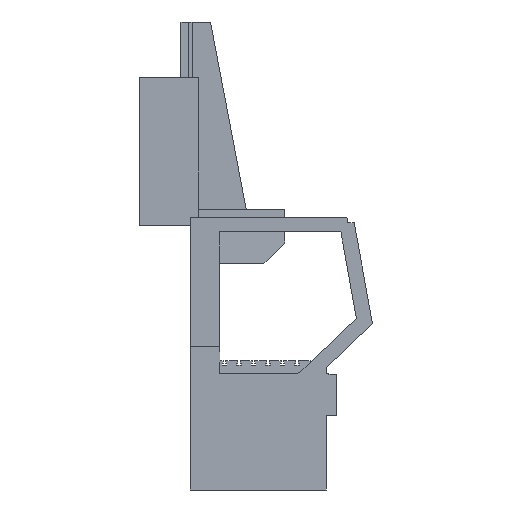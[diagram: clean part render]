
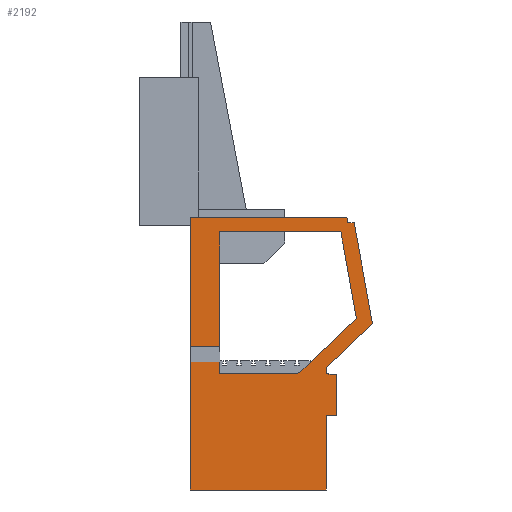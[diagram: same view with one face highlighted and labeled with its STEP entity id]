
A CAD part, left-side view. The second image highlights one B-rep face of the part: STEP entity #2192.
In plain terms, the highlighted planar face has unit normal (-1, 0, 0) as drawn and (1, 0, 0) by its records, which use the part's own axes.
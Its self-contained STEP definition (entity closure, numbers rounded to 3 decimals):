
#554=CARTESIAN_POINT('Vertex',(195.,-295.,242.)) ;
#557=CARTESIAN_POINT('Line Origine',(195.,-147.5,242.)) ;
#561=CARTESIAN_POINT('Vertex',(195.,0.,242.)) ;
#594=CARTESIAN_POINT('Vertex',(195.,-295.,321.089)) ;
#599=CARTESIAN_POINT('Line Origine',(195.,-295.,281.544)) ;
#608=CARTESIAN_POINT('Vertex',(195.,-295.,1202.)) ;
#611=CARTESIAN_POINT('Line Origine',(195.,-295.,815.709)) ;
#615=CARTESIAN_POINT('Vertex',(195.,-295.,429.418)) ;
#650=CARTESIAN_POINT('Vertex',(195.,525.,1202.)) ;
#653=CARTESIAN_POINT('Line Origine',(195.,115.,1202.)) ;
#674=CARTESIAN_POINT('Vertex',(195.,630.626,618.46)) ;
#677=CARTESIAN_POINT('Line Origine',(195.,577.813,910.23)) ;
#698=CARTESIAN_POINT('Vertex',(195.,235.,242.)) ;
#701=CARTESIAN_POINT('Line Origine',(195.,432.813,430.23)) ;
#713=CARTESIAN_POINT('Line Origine',(195.,117.5,242.)) ;
#722=CARTESIAN_POINT('Vertex',(195.,425.,242.)) ;
#725=CARTESIAN_POINT('Line Origine',(195.,435.,242.)) ;
#729=CARTESIAN_POINT('Vertex',(195.,445.,242.)) ;
#764=CARTESIAN_POINT('Vertex',(195.,572.221,1265.)) ;
#767=CARTESIAN_POINT('Line Origine',(195.,593.721,1265.)) ;
#771=CARTESIAN_POINT('Vertex',(195.,615.221,1265.)) ;
#795=CARTESIAN_POINT('Vertex',(195.,565.524,1302.)) ;
#798=CARTESIAN_POINT('Line Origine',(195.,568.873,1283.5)) ;
#1017=CARTESIAN_POINT('Vertex',(195.,-495.,321.089)) ;
#1022=CARTESIAN_POINT('Line Origine',(195.,-395.,321.089)) ;
#1867=CARTESIAN_POINT('Line Origine',(195.,425.,-290.5)) ;
#1871=CARTESIAN_POINT('Vertex',(195.,425.,-543.)) ;
#1873=CARTESIAN_POINT('Vertex',(195.,425.,-38.)) ;
#1914=CARTESIAN_POINT('Vertex',(195.,445.,240.)) ;
#1917=CARTESIAN_POINT('Line Origine',(195.,470.,240.)) ;
#1921=CARTESIAN_POINT('Vertex',(195.,495.,240.)) ;
#1944=CARTESIAN_POINT('Line Origine',(195.,495.,101.)) ;
#1948=CARTESIAN_POINT('Vertex',(195.,495.,-38.)) ;
#1975=CARTESIAN_POINT('Line Origine',(195.,460.,-38.)) ;
#2012=CARTESIAN_POINT('Line Origine',(195.,445.,241.)) ;
#2063=CARTESIAN_POINT('Line Origine',(195.,-35.,-543.)) ;
#2067=CARTESIAN_POINT('Vertex',(195.,-495.,-543.)) ;
#2106=CARTESIAN_POINT('Line Origine',(195.,-395.,429.418)) ;
#2110=CARTESIAN_POINT('Vertex',(195.,-495.,429.418)) ;
#2125=CARTESIAN_POINT('Axis2P3D Location',(195.,0.,0.)) ;
#2130=CARTESIAN_POINT('Line Origine',(195.,-495.,-110.956)) ;
#2135=CARTESIAN_POINT('Line Origine',(195.,425.,263.379)) ;
#2139=CARTESIAN_POINT('Vertex',(195.,425.,284.757)) ;
#2142=CARTESIAN_POINT('Line Origine',(195.,581.817,433.977)) ;
#2146=CARTESIAN_POINT('Vertex',(195.,738.634,583.198)) ;
#2149=CARTESIAN_POINT('Line Origine',(195.,676.928,924.099)) ;
#2154=CARTESIAN_POINT('Line Origine',(195.,35.262,1302.)) ;
#2158=CARTESIAN_POINT('Vertex',(195.,-495.,1302.)) ;
#2161=CARTESIAN_POINT('Line Origine',(195.,-495.,865.709)) ;
#558=DIRECTION('Vector Direction',(0.,-1.,0.)) ;
#600=DIRECTION('Vector Direction',(0.,0.,1.)) ;
#612=DIRECTION('Vector Direction',(0.,0.,1.)) ;
#654=DIRECTION('Vector Direction',(0.,1.,0.)) ;
#678=DIRECTION('Vector Direction',(0.,0.178,-0.984)) ;
#702=DIRECTION('Vector Direction',(0.,-0.724,-0.689)) ;
#714=DIRECTION('Vector Direction',(0.,-1.,0.)) ;
#726=DIRECTION('Vector Direction',(0.,-1.,0.)) ;
#768=DIRECTION('Vector Direction',(0.,1.,0.)) ;
#799=DIRECTION('Vector Direction',(0.,0.178,-0.984)) ;
#1023=DIRECTION('Vector Direction',(0.,-1.,0.)) ;
#1868=DIRECTION('Vector Direction',(0.,0.,-1.)) ;
#1918=DIRECTION('Vector Direction',(0.,1.,0.)) ;
#1945=DIRECTION('Vector Direction',(0.,0.,-1.)) ;
#1976=DIRECTION('Vector Direction',(0.,1.,0.)) ;
#2013=DIRECTION('Vector Direction',(0.,0.,-1.)) ;
#2064=DIRECTION('Vector Direction',(0.,-1.,0.)) ;
#2107=DIRECTION('Vector Direction',(0.,1.,0.)) ;
#2126=DIRECTION('Axis2P3D Direction',(1.,0.,0.)) ;
#2127=DIRECTION('Axis2P3D XDirection',(0.,1.,0.)) ;
#2131=DIRECTION('Vector Direction',(0.,0.,1.)) ;
#2136=DIRECTION('Vector Direction',(0.,0.,-1.)) ;
#2143=DIRECTION('Vector Direction',(0.,-0.724,-0.689)) ;
#2150=DIRECTION('Vector Direction',(0.,0.178,-0.984)) ;
#2155=DIRECTION('Vector Direction',(0.,1.,0.)) ;
#2162=DIRECTION('Vector Direction',(0.,0.,1.)) ;
#2128=AXIS2_PLACEMENT_3D('Plane Axis2P3D',#2125,#2126,#2127) ;
#2167=ORIENTED_EDGE('',*,*,#2134,.T.) ;
#2168=ORIENTED_EDGE('',*,*,#2069,.T.) ;
#2169=ORIENTED_EDGE('',*,*,#1875,.T.) ;
#2170=ORIENTED_EDGE('',*,*,#1979,.T.) ;
#2171=ORIENTED_EDGE('',*,*,#1950,.T.) ;
#2172=ORIENTED_EDGE('',*,*,#1923,.T.) ;
#2173=ORIENTED_EDGE('',*,*,#2016,.T.) ;
#2174=ORIENTED_EDGE('',*,*,#731,.T.) ;
#2175=ORIENTED_EDGE('',*,*,#2141,.T.) ;
#2176=ORIENTED_EDGE('',*,*,#2148,.T.) ;
#2177=ORIENTED_EDGE('',*,*,#2153,.T.) ;
#2178=ORIENTED_EDGE('',*,*,#773,.F.) ;
#2179=ORIENTED_EDGE('',*,*,#802,.F.) ;
#2180=ORIENTED_EDGE('',*,*,#2160,.T.) ;
#2181=ORIENTED_EDGE('',*,*,#2165,.T.) ;
#2182=ORIENTED_EDGE('',*,*,#2112,.F.) ;
#2183=ORIENTED_EDGE('',*,*,#617,.F.) ;
#2184=ORIENTED_EDGE('',*,*,#657,.F.) ;
#2185=ORIENTED_EDGE('',*,*,#681,.F.) ;
#2186=ORIENTED_EDGE('',*,*,#705,.F.) ;
#2187=ORIENTED_EDGE('',*,*,#717,.T.) ;
#2188=ORIENTED_EDGE('',*,*,#563,.T.) ;
#2189=ORIENTED_EDGE('',*,*,#603,.F.) ;
#2190=ORIENTED_EDGE('',*,*,#1026,.F.) ;
#559=VECTOR('Line Direction',#558,1.) ;
#601=VECTOR('Line Direction',#600,1.) ;
#613=VECTOR('Line Direction',#612,1.) ;
#655=VECTOR('Line Direction',#654,1.) ;
#679=VECTOR('Line Direction',#678,1.) ;
#703=VECTOR('Line Direction',#702,1.) ;
#715=VECTOR('Line Direction',#714,1.) ;
#727=VECTOR('Line Direction',#726,1.) ;
#769=VECTOR('Line Direction',#768,1.) ;
#800=VECTOR('Line Direction',#799,1.) ;
#1024=VECTOR('Line Direction',#1023,1.) ;
#1869=VECTOR('Line Direction',#1868,1.) ;
#1919=VECTOR('Line Direction',#1918,1.) ;
#1946=VECTOR('Line Direction',#1945,1.) ;
#1977=VECTOR('Line Direction',#1976,1.) ;
#2014=VECTOR('Line Direction',#2013,1.) ;
#2065=VECTOR('Line Direction',#2064,1.) ;
#2108=VECTOR('Line Direction',#2107,1.) ;
#2132=VECTOR('Line Direction',#2131,1.) ;
#2137=VECTOR('Line Direction',#2136,1.) ;
#2144=VECTOR('Line Direction',#2143,1.) ;
#2151=VECTOR('Line Direction',#2150,1.) ;
#2156=VECTOR('Line Direction',#2155,1.) ;
#2163=VECTOR('Line Direction',#2162,1.) ;
#2192=ADVANCED_FACE('Corps principal',(#2191),#2129,.T.) ;
#563=EDGE_CURVE('',#562,#555,#560,.T.) ;
#603=EDGE_CURVE('',#595,#555,#602,.F.) ;
#617=EDGE_CURVE('',#609,#616,#614,.F.) ;
#657=EDGE_CURVE('',#651,#609,#656,.F.) ;
#681=EDGE_CURVE('',#675,#651,#680,.F.) ;
#705=EDGE_CURVE('',#699,#675,#704,.F.) ;
#717=EDGE_CURVE('',#699,#562,#716,.T.) ;
#731=EDGE_CURVE('',#730,#723,#728,.T.) ;
#773=EDGE_CURVE('',#765,#772,#770,.T.) ;
#802=EDGE_CURVE('',#796,#765,#801,.T.) ;
#1026=EDGE_CURVE('',#1018,#595,#1025,.F.) ;
#1875=EDGE_CURVE('',#1872,#1874,#1870,.F.) ;
#1923=EDGE_CURVE('',#1922,#1915,#1920,.F.) ;
#1950=EDGE_CURVE('',#1949,#1922,#1947,.F.) ;
#1979=EDGE_CURVE('',#1874,#1949,#1978,.T.) ;
#2016=EDGE_CURVE('',#1915,#730,#2015,.F.) ;
#2069=EDGE_CURVE('',#2068,#1872,#2066,.F.) ;
#2112=EDGE_CURVE('',#616,#2111,#2109,.F.) ;
#2134=EDGE_CURVE('',#1018,#2068,#2133,.F.) ;
#2141=EDGE_CURVE('',#723,#2140,#2138,.F.) ;
#2148=EDGE_CURVE('',#2140,#2147,#2145,.F.) ;
#2153=EDGE_CURVE('',#2147,#772,#2152,.F.) ;
#2160=EDGE_CURVE('',#796,#2159,#2157,.F.) ;
#2165=EDGE_CURVE('',#2159,#2111,#2164,.F.) ;
#2166=EDGE_LOOP('',(#2167,#2168,#2169,#2170,#2171,#2172,#2173,#2174,#2175,#2176,#2177,#2178,#2179,#2180,#2181,#2182,#2183,#2184,#2185,#2186,#2187,#2188,#2189,#2190)) ;
#2191=FACE_OUTER_BOUND('',#2166,.T.) ;
#560=LINE('Line',#557,#559) ;
#602=LINE('Line',#599,#601) ;
#614=LINE('Line',#611,#613) ;
#656=LINE('Line',#653,#655) ;
#680=LINE('Line',#677,#679) ;
#704=LINE('Line',#701,#703) ;
#716=LINE('Line',#713,#715) ;
#728=LINE('Line',#725,#727) ;
#770=LINE('Line',#767,#769) ;
#801=LINE('Line',#798,#800) ;
#1025=LINE('Line',#1022,#1024) ;
#1870=LINE('Line',#1867,#1869) ;
#1920=LINE('Line',#1917,#1919) ;
#1947=LINE('Line',#1944,#1946) ;
#1978=LINE('Line',#1975,#1977) ;
#2015=LINE('Line',#2012,#2014) ;
#2066=LINE('Line',#2063,#2065) ;
#2109=LINE('Line',#2106,#2108) ;
#2133=LINE('Line',#2130,#2132) ;
#2138=LINE('Line',#2135,#2137) ;
#2145=LINE('Line',#2142,#2144) ;
#2152=LINE('Line',#2149,#2151) ;
#2157=LINE('Line',#2154,#2156) ;
#2164=LINE('Line',#2161,#2163) ;
#2129=PLANE('',#2128) ;
#555=VERTEX_POINT('',#554) ;
#562=VERTEX_POINT('',#561) ;
#595=VERTEX_POINT('',#594) ;
#609=VERTEX_POINT('',#608) ;
#616=VERTEX_POINT('',#615) ;
#651=VERTEX_POINT('',#650) ;
#675=VERTEX_POINT('',#674) ;
#699=VERTEX_POINT('',#698) ;
#723=VERTEX_POINT('',#722) ;
#730=VERTEX_POINT('',#729) ;
#765=VERTEX_POINT('',#764) ;
#772=VERTEX_POINT('',#771) ;
#796=VERTEX_POINT('',#795) ;
#1018=VERTEX_POINT('',#1017) ;
#1872=VERTEX_POINT('',#1871) ;
#1874=VERTEX_POINT('',#1873) ;
#1915=VERTEX_POINT('',#1914) ;
#1922=VERTEX_POINT('',#1921) ;
#1949=VERTEX_POINT('',#1948) ;
#2068=VERTEX_POINT('',#2067) ;
#2111=VERTEX_POINT('',#2110) ;
#2140=VERTEX_POINT('',#2139) ;
#2147=VERTEX_POINT('',#2146) ;
#2159=VERTEX_POINT('',#2158) ;
